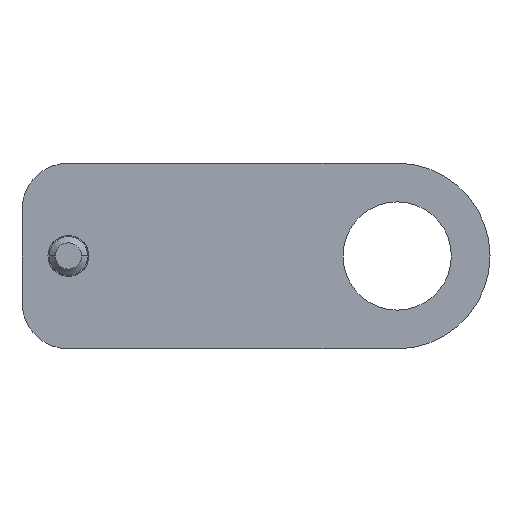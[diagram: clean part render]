
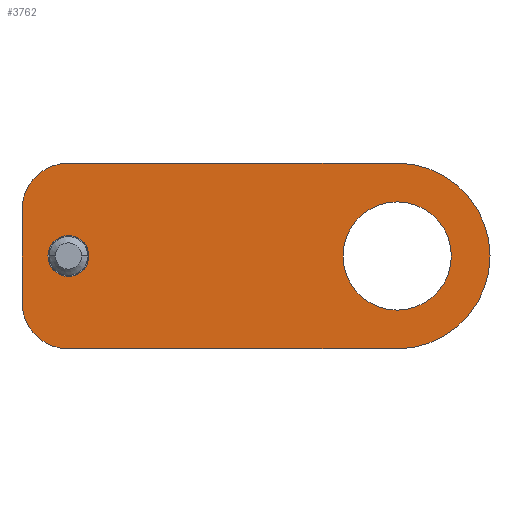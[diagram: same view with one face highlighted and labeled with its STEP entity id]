
A CAD part, front view. The second image highlights one B-rep face of the part: STEP entity #3762.
In plain terms, the highlighted planar face has unit normal (0, -1, 0).
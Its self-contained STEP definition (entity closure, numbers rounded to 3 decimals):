
#251 = ORIENTED_EDGE ( 'NONE', *, *, #1222, .T. ) ;
#253 = EDGE_LOOP ( 'NONE', ( #1711, #8190, #6599, #4966, #6910, #7472 ) ) ;
#308 = VERTEX_POINT ( 'NONE', #6999 ) ;
#377 = CIRCLE ( 'NONE', #11270, 6. ) ;
#689 = CIRCLE ( 'NONE', #5652, 2.65 ) ;
#751 = VERTEX_POINT ( 'NONE', #9823 ) ;
#902 = PLANE ( 'NONE',  #2369 ) ;
#938 = CARTESIAN_POINT ( 'NONE',  ( -1.915, -8.609, 12. ) ) ;
#947 = CARTESIAN_POINT ( 'NONE',  ( 4.085, -8.609, 0. ) ) ;
#1168 = EDGE_LOOP ( 'NONE', ( #12009, #9334 ) ) ;
#1222 = EDGE_CURVE ( 'NONE', #2696, #9721, #689, .T. ) ;
#1306 = CIRCLE ( 'NONE', #2505, 6. ) ;
#1372 = DIRECTION ( 'NONE',  ( 0., -1., 0. ) ) ;
#1465 = VECTOR ( 'NONE', #5104, 1000. ) ;
#1674 = EDGE_CURVE ( 'NONE', #10630, #751, #4201, .T. ) ;
#1711 = ORIENTED_EDGE ( 'NONE', *, *, #8671, .T. ) ;
#1770 = AXIS2_PLACEMENT_3D ( 'NONE', #7561, #7493, #3976 ) ;
#1802 = VERTEX_POINT ( 'NONE', #2176 ) ;
#1868 = DIRECTION ( 'NONE',  ( 0., 0., -1. ) ) ;
#1881 = DIRECTION ( 'NONE',  ( -1., 0., 0. ) ) ;
#2083 = VECTOR ( 'NONE', #2087, 1000. ) ;
#2087 = DIRECTION ( 'NONE',  ( 1., 0., 0. ) ) ;
#2176 = CARTESIAN_POINT ( 'NONE',  ( 4.085, -8.609, 12. ) ) ;
#2177 = DIRECTION ( 'NONE',  ( 0., 1., 0. ) ) ;
#2369 = AXIS2_PLACEMENT_3D ( 'NONE', #938, #7512, #1868 ) ;
#2505 = AXIS2_PLACEMENT_3D ( 'NONE', #7018, #1372, #7947 ) ;
#2696 = VERTEX_POINT ( 'NONE', #6123 ) ;
#2722 = EDGE_CURVE ( 'NONE', #3350, #8907, #8948, .T. ) ;
#2824 = CARTESIAN_POINT ( 'NONE',  ( -1.915, -8.609, 6. ) ) ;
#3322 = VECTOR ( 'NONE', #5030, 1000. ) ;
#3329 = ORIENTED_EDGE ( 'NONE', *, *, #6900, .T. ) ;
#3350 = VERTEX_POINT ( 'NONE', #2824 ) ;
#3522 = EDGE_CURVE ( 'NONE', #10167, #308, #11503, .T. ) ;
#3762 = ADVANCED_FACE ( 'NONE', ( #6310, #8483, #9076 ), #902, .T. ) ;
#3776 = CARTESIAN_POINT ( 'NONE',  ( 46.585, -8.609, 0. ) ) ;
#3976 = DIRECTION ( 'NONE',  ( 0., 0., -1. ) ) ;
#4201 = CIRCLE ( 'NONE', #1770, 12. ) ;
#4683 = CARTESIAN_POINT ( 'NONE',  ( 4.085, -8.609, 6. ) ) ;
#4743 = DIRECTION ( 'NONE',  ( -1., 0., 0. ) ) ;
#4966 = ORIENTED_EDGE ( 'NONE', *, *, #11183, .T. ) ;
#5030 = DIRECTION ( 'NONE',  ( 1., 0., 0. ) ) ;
#5104 = DIRECTION ( 'NONE',  ( 0., 0., -1. ) ) ;
#5196 = CARTESIAN_POINT ( 'NONE',  ( 46.585, -8.609, -12. ) ) ;
#5221 = CARTESIAN_POINT ( 'NONE',  ( -1.915, -8.609, 0. ) ) ;
#5380 = CARTESIAN_POINT ( 'NONE',  ( -1.915, -8.609, -6. ) ) ;
#5555 = CIRCLE ( 'NONE', #8336, 7. ) ;
#5630 = DIRECTION ( 'NONE',  ( 0., 0., -1. ) ) ;
#5652 = AXIS2_PLACEMENT_3D ( 'NONE', #10993, #11032, #11079 ) ;
#5794 = CIRCLE ( 'NONE', #6399, 2.65 ) ;
#5843 = AXIS2_PLACEMENT_3D ( 'NONE', #7810, #2177, #8735 ) ;
#6112 = EDGE_CURVE ( 'NONE', #1802, #751, #9553, .T. ) ;
#6123 = CARTESIAN_POINT ( 'NONE',  ( 1.435, -8.609, 0. ) ) ;
#6130 = LINE ( 'NONE', #7761, #3322 ) ;
#6263 = CARTESIAN_POINT ( 'NONE',  ( 39.585, -8.609, 0. ) ) ;
#6310 = FACE_BOUND ( 'NONE', #1168, .T. ) ;
#6399 = AXIS2_PLACEMENT_3D ( 'NONE', #947, #7518, #1881 ) ;
#6599 = ORIENTED_EDGE ( 'NONE', *, *, #6112, .F. ) ;
#6900 = EDGE_CURVE ( 'NONE', #9721, #2696, #5794, .T. ) ;
#6910 = ORIENTED_EDGE ( 'NONE', *, *, #2722, .T. ) ;
#6999 = CARTESIAN_POINT ( 'NONE',  ( 53.585, -8.609, 0. ) ) ;
#7018 = CARTESIAN_POINT ( 'NONE',  ( 4.085, -8.609, -6. ) ) ;
#7423 = VERTEX_POINT ( 'NONE', #8316 ) ;
#7472 = ORIENTED_EDGE ( 'NONE', *, *, #8220, .T. ) ;
#7493 = DIRECTION ( 'NONE',  ( 0., -1., 0. ) ) ;
#7512 = DIRECTION ( 'NONE',  ( 0., -1., 0. ) ) ;
#7518 = DIRECTION ( 'NONE',  ( 0., 1., 0. ) ) ;
#7561 = CARTESIAN_POINT ( 'NONE',  ( 46.585, -8.609, 0. ) ) ;
#7690 = CARTESIAN_POINT ( 'NONE',  ( 25.335, -8.609, 12. ) ) ;
#7761 = CARTESIAN_POINT ( 'NONE',  ( 28.517, -8.609, -12. ) ) ;
#7810 = CARTESIAN_POINT ( 'NONE',  ( 46.585, -8.609, 0. ) ) ;
#7947 = DIRECTION ( 'NONE',  ( 0., 0., -1. ) ) ;
#8190 = ORIENTED_EDGE ( 'NONE', *, *, #1674, .T. ) ;
#8199 = EDGE_LOOP ( 'NONE', ( #251, #3329 ) ) ;
#8220 = EDGE_CURVE ( 'NONE', #8907, #7423, #1306, .T. ) ;
#8316 = CARTESIAN_POINT ( 'NONE',  ( 4.085, -8.609, -12. ) ) ;
#8336 = AXIS2_PLACEMENT_3D ( 'NONE', #3776, #10273, #4743 ) ;
#8483 = FACE_BOUND ( 'NONE', #8199, .T. ) ;
#8544 = EDGE_CURVE ( 'NONE', #308, #10167, #5555, .T. ) ;
#8671 = EDGE_CURVE ( 'NONE', #7423, #10630, #6130, .T. ) ;
#8735 = DIRECTION ( 'NONE',  ( -1., 0., 0. ) ) ;
#8907 = VERTEX_POINT ( 'NONE', #5380 ) ;
#8948 = LINE ( 'NONE', #5221, #1465 ) ;
#9076 = FACE_OUTER_BOUND ( 'NONE', #253, .T. ) ;
#9334 = ORIENTED_EDGE ( 'NONE', *, *, #8544, .T. ) ;
#9397 = CARTESIAN_POINT ( 'NONE',  ( 6.735, -8.609, 0. ) ) ;
#9553 = LINE ( 'NONE', #7690, #2083 ) ;
#9721 = VERTEX_POINT ( 'NONE', #9397 ) ;
#9823 = CARTESIAN_POINT ( 'NONE',  ( 46.585, -8.609, 12. ) ) ;
#10167 = VERTEX_POINT ( 'NONE', #6263 ) ;
#10273 = DIRECTION ( 'NONE',  ( 0., 1., 0. ) ) ;
#10630 = VERTEX_POINT ( 'NONE', #5196 ) ;
#10993 = CARTESIAN_POINT ( 'NONE',  ( 4.085, -8.609, 0. ) ) ;
#11032 = DIRECTION ( 'NONE',  ( 0., 1., 0. ) ) ;
#11079 = DIRECTION ( 'NONE',  ( -1., 0., 0. ) ) ;
#11134 = DIRECTION ( 'NONE',  ( 0., -1., 0. ) ) ;
#11183 = EDGE_CURVE ( 'NONE', #1802, #3350, #377, .T. ) ;
#11270 = AXIS2_PLACEMENT_3D ( 'NONE', #4683, #11134, #5630 ) ;
#11503 = CIRCLE ( 'NONE', #5843, 7. ) ;
#12009 = ORIENTED_EDGE ( 'NONE', *, *, #3522, .T. ) ;
